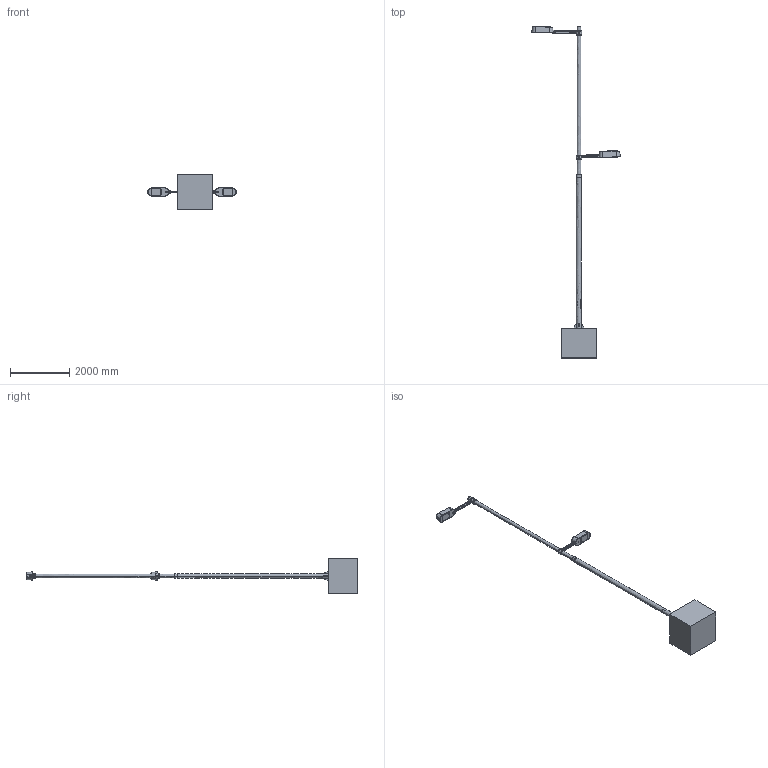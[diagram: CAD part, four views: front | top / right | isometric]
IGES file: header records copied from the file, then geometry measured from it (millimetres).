
Start section: SolidWorks IGES file using analytic representation for surfaces
Global section: file name: C:\SANTACOLE_PDM\Proyectos Catálogo\PROD-P08-057 -- Candela\6_Técnico comercial\3D WEB\IGES\Farola Candela 1200cm 2S 2L DIFERENTE ALTURA BRAZO MEDIO BRAZO CORTO.IGS; native system: SolidWorks 2013; preprocessor: SolidWorks 2013; author: jordi.munoz; date: 150527.130811; units: millimetre
Bounding box: 3004.54 x 11224.5 x 1200 mm (x, y, z)
Surface area: 21718701 mm2 (no closed solid volume)
Topology: 0 solids, 0 shells, 3935 faces, 36542 edges, 36480 vertices
Faces by surface type: bspline 2786, revolution 1149
